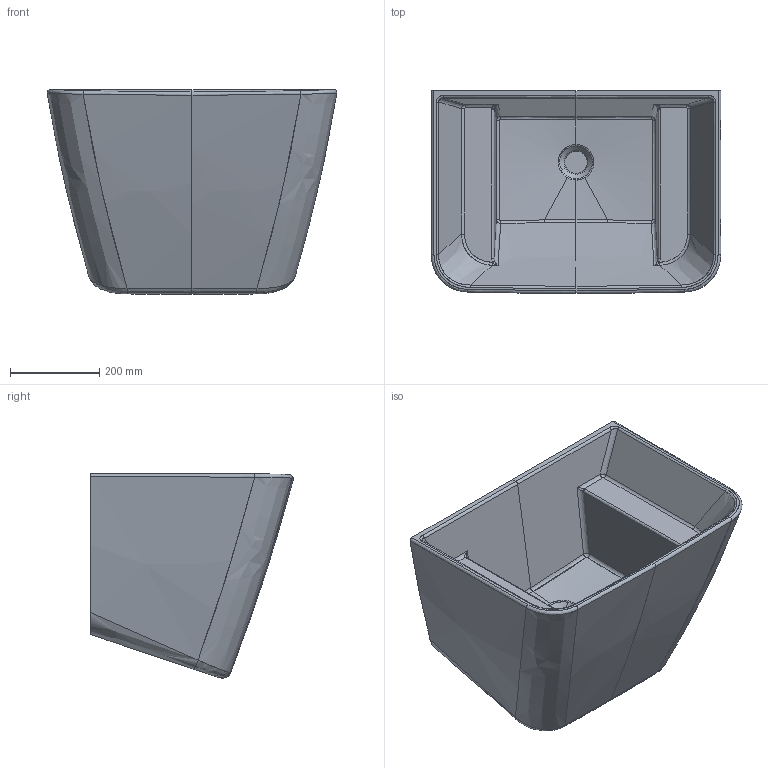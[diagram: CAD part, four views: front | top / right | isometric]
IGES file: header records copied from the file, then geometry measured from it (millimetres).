
Start section: START RECORD GO HERE.
Global section: file name: 5403_Lavatoio MEG SC.igs; native system: DASSAULT SYSTEMES CATIA V5 R19 - www.3ds.com; preprocessor: CATIA Version 5 Release 19 SP 5 ; author: gioge; organization: LAPTOP-G94B6G74; date: 20200630.121106; units: millimetre
Bounding box: 647.89 x 453.87 x 457.06 mm (x, y, z)
Surface area: 1500999.6 mm2 (no closed solid volume)
Topology: 0 solids, 0 shells, 103 faces, 494 edges, 490 vertices
Faces by surface type: bspline 77, revolution 18, plane 6, extrusion 2
